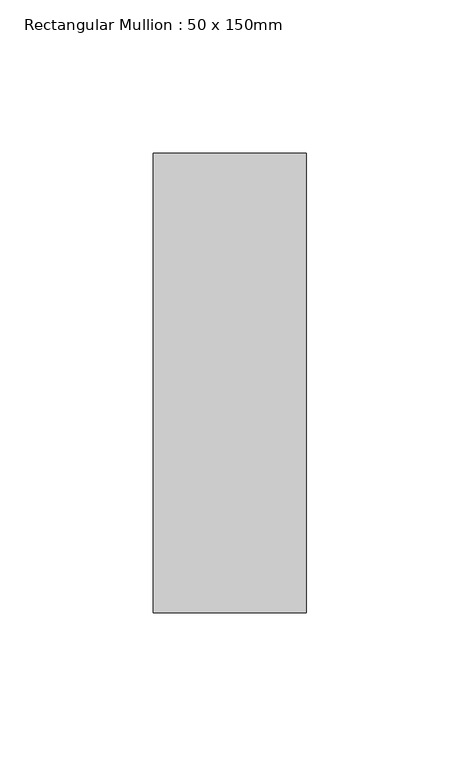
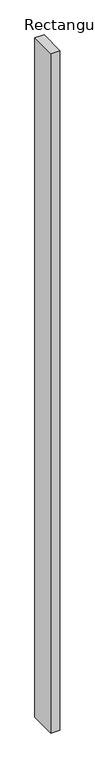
"""IFC4 building model written with IfcOpenShell, lengths in millimetres: member geometry, Rectangular Mullion : 50 x 150mm."""

from ifc_helpers import new_model, si_unit, frame, origin, place, context, project, spatial, polyline, outline, extrude, source, transform, mapped, element, save


def rectangular_mullion_50_x_150mm_c2546fd4(model_context):
    return source(origin(), model_context, "Body", "SweptSolid", [
        extrude(outline(polyline([(25.0, 75.0), (25.0, -75.0), (-25.0, -75.0), (-25.0, 75.0), (25.0, 75.0)])), frame((0.0, 0.0, -3925.0), z_axis=(0.0, 0.0, 1.0), x_axis=(1.0, 0.0, 0.0)), (0.0, 0.0, 1.0), 3925.0),
    ])


if __name__ == "__main__":
    model = new_model("IFC4")
    model_context = context("Model", 3, world=origin())
    ifc_project = project(units=[si_unit("LENGTHUNIT", "METRE", prefix="MILLI")], contexts=[model_context])
    site = spatial("IfcSite", under=ifc_project)
    building = spatial("IfcBuilding", under=site)
    placement = place(None, origin())
    rectangular_mullion_50_x_150mm_shape = rectangular_mullion_50_x_150mm_c2546fd4(model_context)
    element("IfcMember", 1, ObjectType="Rectangular Mullion : 50 x 150mm", at=placement, inside=building, context=model_context, shape_type="MappedRepresentation", body=[
        mapped(rectangular_mullion_50_x_150mm_shape, transform((0.0, 0.0, 0.0), x_axis=(1.0, 0.0, 0.0), y_axis=(0.0, 1.0, 0.0), z_axis=(0.0, 0.0, 1.0))),
    ])
    save(model, "model.ifc")
